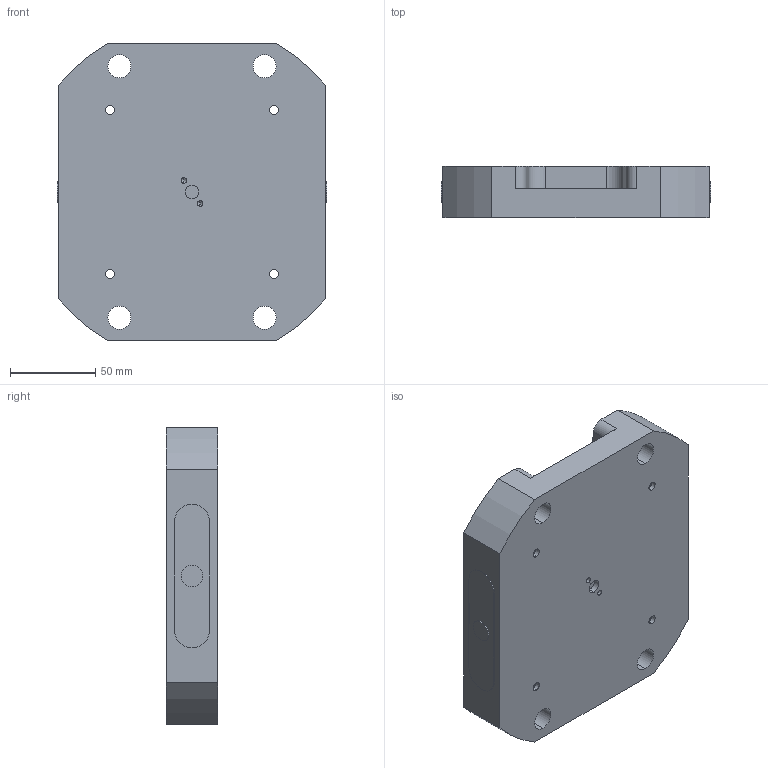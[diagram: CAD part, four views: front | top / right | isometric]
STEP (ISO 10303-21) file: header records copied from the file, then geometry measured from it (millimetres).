
FILE_DESCRIPTION (( 'STEP AP214' ), '1' );
FILE_NAME ('D_RL96A-6760.STEP', '2020-03-11T17:49:01', ( '' ), ( '' ), 'SwSTEP 2.0', 'SolidWorks 2018', '' );
FILE_SCHEMA (( 'AUTOMOTIVE_DESIGN' ));
Length unit declared in the file: millimetre
Products named in the file (1): D_RL96A-6760
Bounding box: 158 x 30 x 174 mm (x, y, z)
Volume: 563884.6 mm3; surface area: 111518.5 mm2
Topology: 1 solids, 1 shells, 219 faces, 540 edges, 346 vertices
Faces by surface type: cylinder 130, plane 65, cone 24
Entity records: 7608 total; most frequent: CARTESIAN_POINT 1582, DIRECTION 1212, ORIENTED_EDGE 1064, EDGE_CURVE 532, AXIS2_PLACEMENT_3D 490, VERTEX_POINT 346, EDGE_LOOP 274, CIRCLE 270
